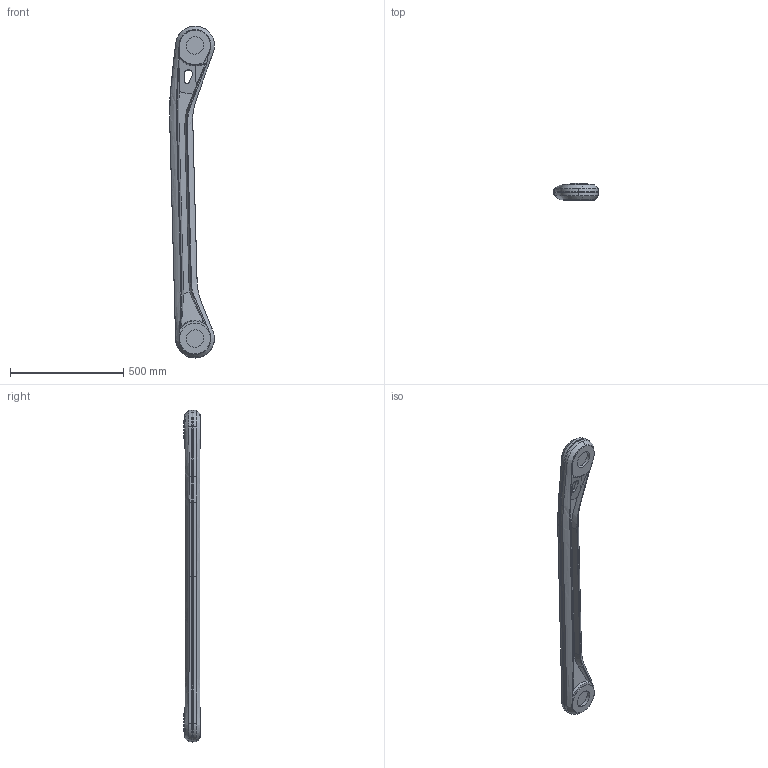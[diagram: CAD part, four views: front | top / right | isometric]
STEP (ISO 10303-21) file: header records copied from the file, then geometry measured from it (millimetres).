
FILE_DESCRIPTION (( 'STEP AP214' ), '1' );
FILE_NAME ('IRB7710_360kg-330_OC_00_LINKBAR_CAD.STEP', '2023-09-26T08:59:08', ( '' ), ( '' ), 'SwSTEP 2.0', 'SolidWorks 2022', '' );
FILE_SCHEMA (( 'AUTOMOTIVE_DESIGN' ));
Length unit declared in the file: millimetre
Products named in the file (1): IRB7710_360kg-330_OC_00_LINKBAR_CAD
Bounding box: 198.64 x 75 x 1466.94 mm (x, y, z)
Volume: 7658948.6 mm3; surface area: 579864.3 mm2
Topology: 1 solids, 1 shells, 142 faces, 358 edges, 224 vertices
Faces by surface type: cone 56, plane 34, torus 20, cylinder 18, bspline 14
Entity records: 20451 total; most frequent: CARTESIAN_POINT 17106, ORIENTED_EDGE 716, DIRECTION 637, EDGE_CURVE 358, AXIS2_PLACEMENT_3D 262, VERTEX_POINT 224, EDGE_LOOP 150, ADVANCED_FACE 142
